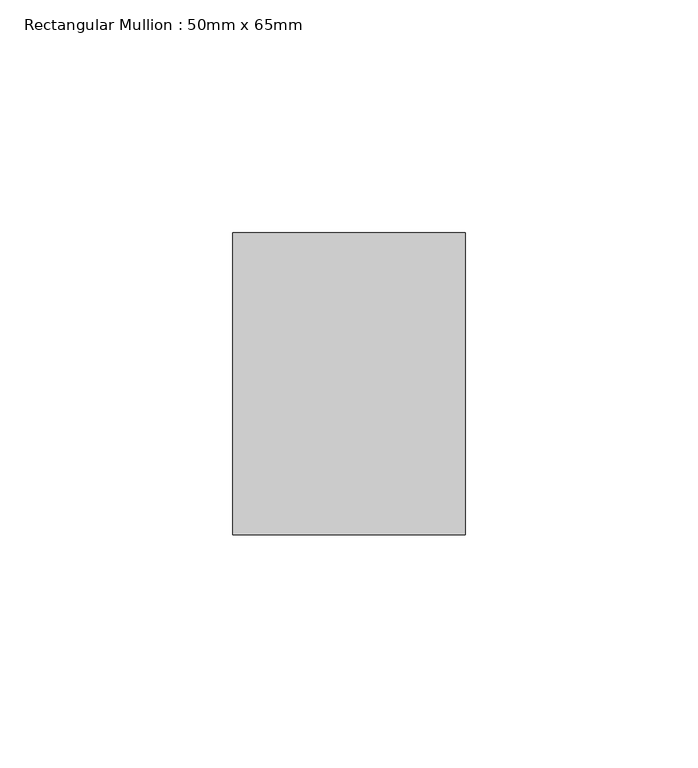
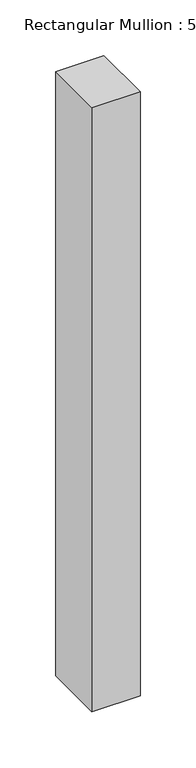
"""IFC4 building model written with IfcOpenShell, lengths in millimetres: member geometry, Rectangular Mullion : 50mm x 65mm."""

from ifc_helpers import new_model, si_unit, frame, origin, place, context, project, spatial, polyline, outline, extrude, source, transform, mapped, element, save


def rectangular_mullion_50mm_x_65mm_bf212f9d(model_context):
    return source(origin(), model_context, "Body", "SweptSolid", [
        extrude(outline(polyline([(25.0, 32.5), (25.0, -32.5), (-25.0, -32.5), (-25.0, 32.5), (25.0, 32.5)])), frame((0.0, 0.0, -662.5), z_axis=(0.0, 0.0, 1.0), x_axis=(1.0, 0.0, 0.0)), (0.0, 0.0, 1.0), 662.5),
    ])


if __name__ == "__main__":
    model = new_model("IFC4")
    model_context = context("Model", 3, world=origin())
    ifc_project = project(units=[si_unit("LENGTHUNIT", "METRE", prefix="MILLI")], contexts=[model_context])
    site = spatial("IfcSite", under=ifc_project)
    building = spatial("IfcBuilding", under=site)
    placement = place(None, origin())
    rectangular_mullion_50mm_x_65mm_shape = rectangular_mullion_50mm_x_65mm_bf212f9d(model_context)
    element("IfcMember", 1, ObjectType="Rectangular Mullion : 50mm x 65mm", at=placement, inside=building, context=model_context, shape_type="MappedRepresentation", body=[
        mapped(rectangular_mullion_50mm_x_65mm_shape, transform((0.0, 0.0, 0.0), x_axis=(1.0, 0.0, 0.0), y_axis=(0.0, 1.0, 0.0), z_axis=(0.0, 0.0, 1.0))),
    ])
    save(model, "model.ifc")
